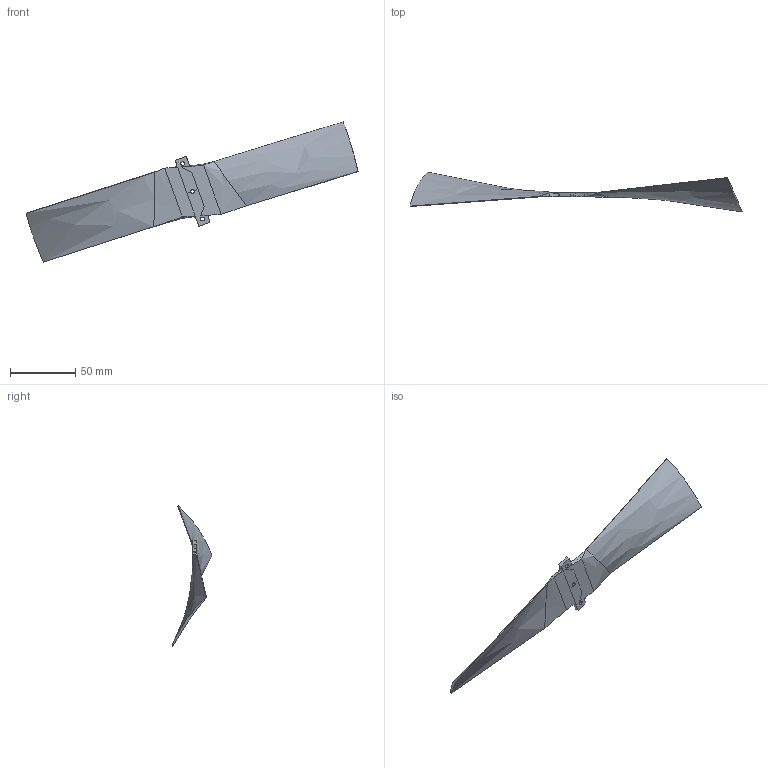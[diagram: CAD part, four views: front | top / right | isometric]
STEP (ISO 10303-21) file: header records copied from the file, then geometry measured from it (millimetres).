
FILE_DESCRIPTION(('CATIA V5 STEP Exchange','CAx-IF Rec.Pracs.--- Model Styling and Organization---1.5--- 2016-08-15','CAx-IF Rec.Pracs.---Supplemental Geometry---1.0---2011-11-01','CAx-IF Rec.Pracs.--- Composite Materials ---1.1---2010-07-15','CAx-IF Rec.Pracs.---External References---2.1---2005-01-19'),'2;1');
FILE_NAME('E:\WAT\Sprezarka\122_00_00_Tlocznik2\Tlocznik2_KPL\Tlocznik2_stp\Lopatka_I_tloczenie.stp','2023-08-01T08:40:10+00:00',('none'),('none'),'CATIA Version 5-6 Release 2022 SP3','CATIA V5 STEP AP214 v2','none');
FILE_SCHEMA(('AUTOMOTIVE_DESIGN { 1 0 10303 214 1 1 1 1 }'));
Length unit declared in the file: millimetre
Products named in the file (1): Lopatka_I_tloczenie
Bounding box: 254.48 x 30.57 x 107.54 mm (x, y, z)
Volume: 21159.2 mm3; surface area: 22334.3 mm2
Topology: 1 solids, 1 shells, 86 faces, 272 edges, 191 vertices
Faces by surface type: bspline 68, plane 10, cylinder 8
Entity records: 5309 total; most frequent: CARTESIAN_POINT 3397, ORIENTED_EDGE 542, EDGE_CURVE 271, B_SPLINE_CURVE_WITH_KNOTS 237, VERTEX_POINT 186, EDGE_LOOP 91, ADVANCED_FACE 86, OVER_RIDING_STYLED_ITEM 86
